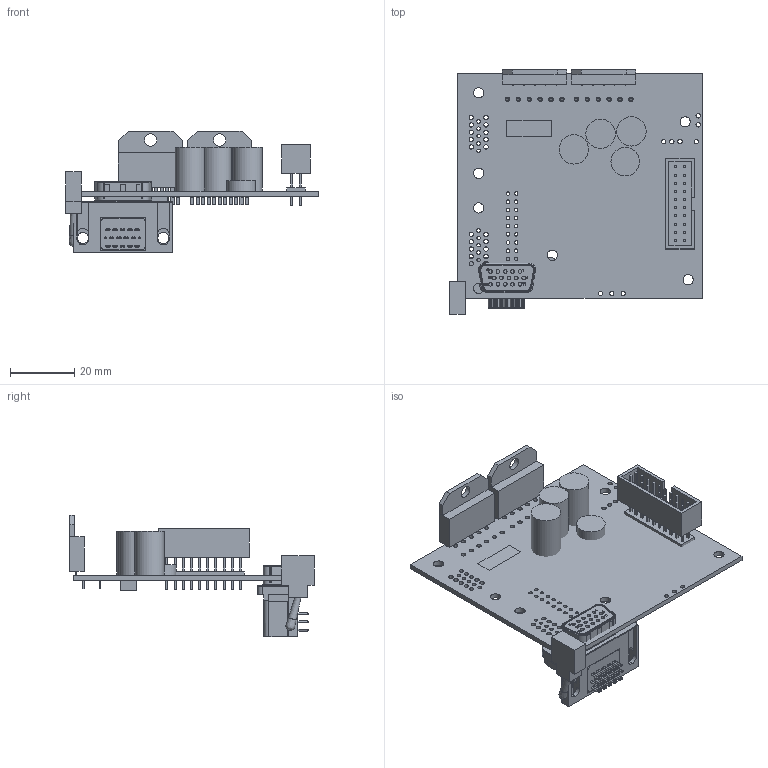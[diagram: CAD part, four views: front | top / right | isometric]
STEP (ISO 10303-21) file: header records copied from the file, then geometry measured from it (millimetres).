
FILE_DESCRIPTION(/* description */ ('Alibre Inc.'),/* implementation_level */ '2;1');
FILE_NAME(/* name */ 'export0',/* time_stamp */ '2008-07-31T16:14:35-07:00',/* author */ (''),/* organization */ (''),/* preprocessor_version */ 'ST-DEVELOPER v10',/* originating_system */ 'Alibre',/* authorisation */ '');
FILE_SCHEMA (('ALIBRE_SCHEMA','CONFIG_CONTROL_DESIGN'));
Length unit declared in the file: inch
Products named in the file (21): ID_1
Bounding box: 78.68 x 76.1 x 37.95 mm (x, y, z)
Volume: 25872.3 mm3; surface area: 30205.3 mm2
Topology: 83 solids, 83 shells, 1684 faces, 4144 edges, 2717 vertices
Faces by surface type: plane 1088, cylinder 434, torus 110, bspline 50, cone 1, revolution 1
Full cylindrical faces by diameter (mm): 1.092 x50, 1.346 x51, 3.175 x9, 3.81 x2, 8.875 x1, 9.144 x3
Entity records: 107121 total; most frequent: CARTESIAN_POINT 33283, ORIENTED_EDGE 10658, DIRECTION 10280, EDGE_CURVE 5329, VECTOR 4142, LINE 3950, AXIS2_PLACEMENT_3D 3760, VERTEX_POINT 3539
